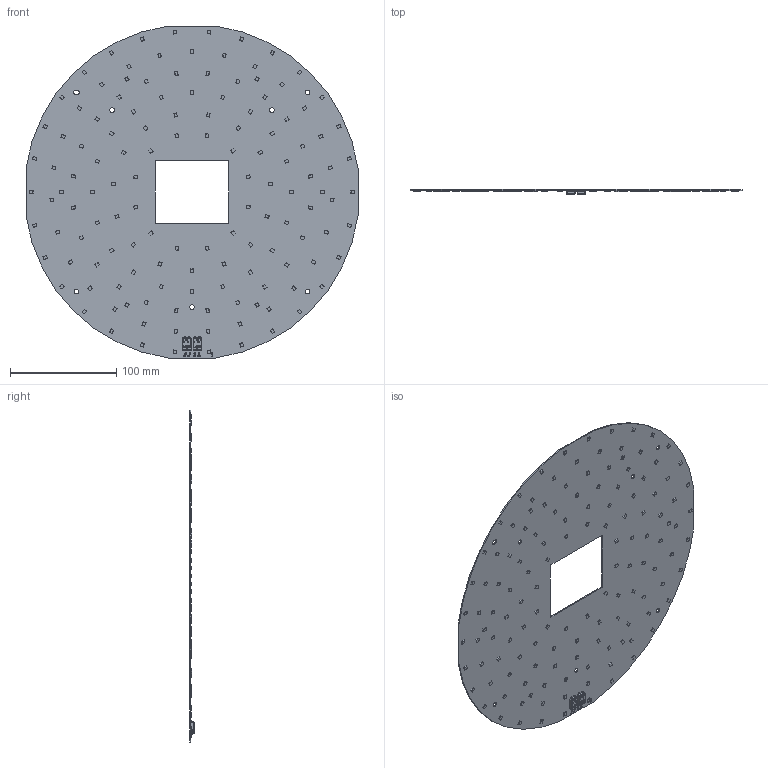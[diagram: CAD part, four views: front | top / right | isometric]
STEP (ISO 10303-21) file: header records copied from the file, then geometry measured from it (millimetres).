
FILE_DESCRIPTION(/* description */ ('Unknown'),/* implementation_level */ '2;1');
FILE_NAME(/* name */ '1010-117-22500 Sh-000 2017-08-25',/* time_stamp */ '2017-08-28T13:59:16+02:00',/* author */ ('Unknown'),/* organization */ ('Unknown'),/* preprocessor_version */ 'ST-DEVELOPER v16.7',/* originating_system */ 'DEX',/* authorisation */ $);
FILE_SCHEMA (('AUTOMOTIVE_DESIGN {1 0 10303 214 3 1 1}'));
Length unit declared in the file: millimetre
Products named in the file (4): RdLed 315 emg ssw; PCB rdled 315 emg ssw; LED 2835; 4010-411-12610 Sh-000 2016-11-03
Assembly tree (137 placements, depth 2):
  RdLed 315 emg ssw
    PCB rdled 315 emg ssw
    LED 2835  x134
    4010-411-12610 Sh-000 2016-11-03  x2
Bounding box: 311.8 x 4.5 x 311.8 mm (x, y, z)
Volume: 75114.6 mm3; surface area: 153300.8 mm2
Topology: 137 solids, 137 shells, 3220 faces, 8041 edges, 5250 vertices
Faces by surface type: plane 2693, cylinder 241, bspline 192, cone 52, torus 22, sphere 20
Full cylindrical faces by diameter (mm): 1.5 x5, 4.3 x6
Entity records: 24217 total; most frequent: CARTESIAN_POINT 7266, ORIENTED_EDGE 2758, DIRECTION 2312, EDGE_CURVE 1379, VERTEX_POINT 879, AXIS2_PLACEMENT_3D 829, LINE 654, VECTOR 654
